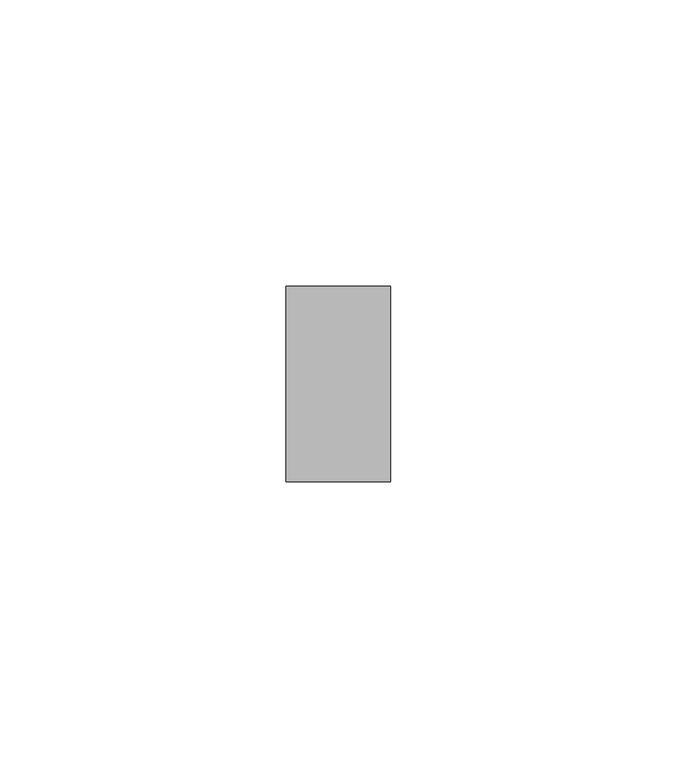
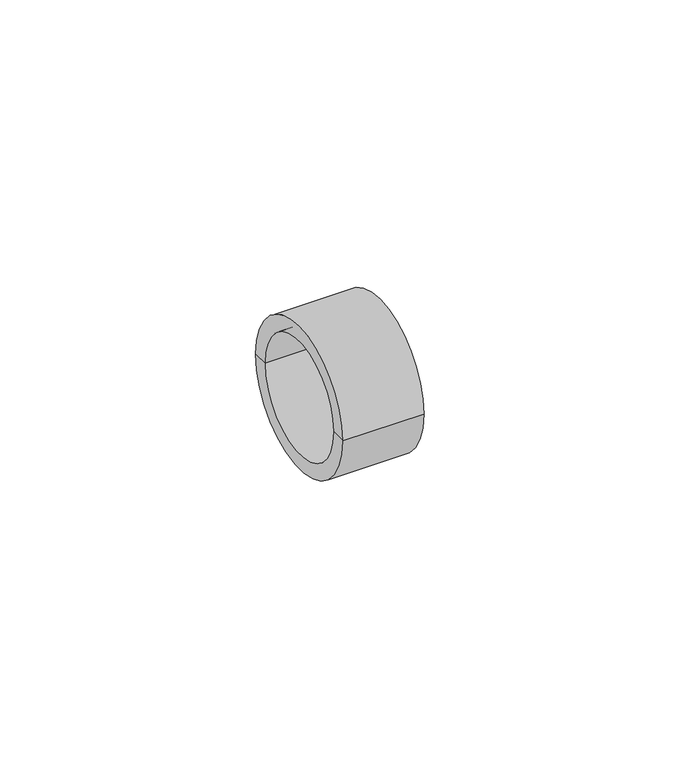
"""IFC4 building model written with IfcOpenShell, lengths in millimetres: cable carrier fitting geometry."""

from ifc_helpers import new_model, si_unit, frame, origin, place, context, project, spatial, polyline, circle_curve, source, transform, mapped, element, save
from ifc_brep_helpers import plane_surface, cylinder_surface, revolved_surface, advanced_brep


def cable_carrier_fitting_d448ec8e(model_context):
    return source(origin(), model_context, "Body", "AdvancedBrep", [
        advanced_brep(
        [(-17.01, -17.05, 0.0), (-17.01, 17.05, 0.0), (1.25, 17.05, 0.0), (1.25, -17.05, 0.0), (-17.01, -13.495, 0.0), (-17.01, 13.495, 0.0), (1.25, 13.495, 0.0), (1.25, -13.495, 0.0)],
        [
            (0, 1, circle_curve(frame((-17.01, 0.0, 0.0), z_axis=(1.0, 0.0, 0.0), x_axis=(0.0, 1.0, 0.0)), 17.05)),
            (1, 2),
            (2, 3, circle_curve(frame((1.25, 0.0, 0.0), z_axis=(-1.0, 0.0, 0.0), x_axis=(0.0, 1.0, 0.0)), 17.05)),
            (3, 0),
            (1, 0, circle_curve(frame((-17.01, 0.0, 0.0), z_axis=(1.0, 0.0, 0.0), x_axis=(0.0, 1.0, 0.0)), 17.05)),
            (3, 2, circle_curve(frame((1.25, 0.0, 0.0), z_axis=(-1.0, 0.0, 0.0), x_axis=(0.0, 1.0, 0.0)), 17.05)),
            (4, 5, circle_curve(frame((-17.01, 0.0, 0.0), z_axis=(1.0, 0.0, 0.0), x_axis=(0.0, 1.0, 0.0)), 13.495)),
            (5, 1),
            (0, 4),
            (5, 4, circle_curve(frame((-17.01, 0.0, 0.0), z_axis=(1.0, 0.0, 0.0), x_axis=(0.0, 1.0, 0.0)), 13.495)),
            (2, 6),
            (6, 7, circle_curve(frame((1.25, 0.0, 0.0), z_axis=(-1.0, 0.0, 0.0), x_axis=(0.0, 1.0, 0.0)), 13.495)),
            (7, 3),
            (7, 6, circle_curve(frame((1.25, 0.0, 0.0), z_axis=(-1.0, 0.0, 0.0), x_axis=(0.0, 1.0, 0.0)), 13.495)),
            (6, 5),
            (4, 7),
        ],
        [
            cylinder_surface(frame((1983.77, 0.0, 0.0), z_axis=(-1.0, 0.0, 0.0), x_axis=(0.0, 1.0, 0.0)), 17.05),
            plane_surface(frame((-17.01, 0.0, 0.0), z_axis=(-1.0, 0.0, 0.0), x_axis=(0.0, 1.0, 0.0))),
            plane_surface(frame((1.25, 0.0, 0.0), z_axis=(1.0, 0.0, 0.0), x_axis=(0.0, 1.0, 0.0))),
            revolved_surface(polyline([(-17.00999999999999, 13.495, 0.0), (1.25, 13.495, 0.0)]), (1983.77, 0.0, 0.0), (-1.0, 0.0, 0.0)),
        ],
        [
            (0, [[1, 2, 3, 4]]),
            (0, [[5, -4, 6, -2]]),
            (1, [[7, 8, -1, 9]]),
            (1, [[10, -9, -5, -8]]),
            (2, [[-3, 11, 12, 13]]),
            (2, [[-6, -13, 14, -11]]),
            (3, [[-12, 15, -7, 16]]),
            (3, [[-14, -16, -10, -15]]),
        ],
    ),
        advanced_brep(
        [(-1.25, -13.495, 0.0), (-1.25, 13.495, 0.0), (1.25, 13.495, 0.0), (1.25, -13.495, 0.0), (-1.25, 0.0, 0.0), (1.25, 0.0, 0.0)],
        [
            (0, 1, circle_curve(frame((-1.25, 0.0, 0.0), z_axis=(1.0, 0.0, 0.0), x_axis=(0.0, 1.0, 0.0)), 13.495)),
            (1, 2),
            (2, 3, circle_curve(frame((1.25, 0.0, 0.0), z_axis=(-1.0, 0.0, 0.0), x_axis=(0.0, 1.0, 0.0)), 13.495)),
            (3, 0),
            (1, 0, circle_curve(frame((-1.25, 0.0, 0.0), z_axis=(1.0, 0.0, 0.0), x_axis=(0.0, 1.0, 0.0)), 13.495)),
            (3, 2, circle_curve(frame((1.25, 0.0, 0.0), z_axis=(-1.0, 0.0, 0.0), x_axis=(0.0, 1.0, 0.0)), 13.495)),
            (4, 1),
            (0, 4),
            (2, 5),
            (5, 3),
        ],
        [
            cylinder_surface(frame((1998.2590145, 0.0, 0.0), z_axis=(-1.0, 0.0, 0.0), x_axis=(0.0, 1.0, 0.0)), 13.495),
            plane_surface(frame((-1.25, 0.0, 0.0), z_axis=(-1.0, 0.0, 0.0), x_axis=(0.0, 1.0, 0.0))),
            plane_surface(frame((1.25, 0.0, 0.0), z_axis=(1.0, 0.0, 0.0), x_axis=(0.0, 1.0, 0.0))),
        ],
        [
            (0, [[1, 2, 3, 4]]),
            (0, [[5, -4, 6, -2]]),
            (1, [[7, -1, 8]]),
            (1, [[-8, -5, -7]]),
            (2, [[-3, 9, 10]]),
            (2, [[-6, -10, -9]]),
        ],
    ),
    ])


if __name__ == "__main__":
    model = new_model("IFC4")
    model_context = context("Model", 3, world=origin())
    ifc_project = project(units=[si_unit("LENGTHUNIT", "METRE", prefix="MILLI")], contexts=[model_context])
    site = spatial("IfcSite", under=ifc_project)
    building = spatial("IfcBuilding", under=site)
    placement = place(None, origin())
    cable_carrier_fitting_shape = cable_carrier_fitting_d448ec8e(model_context)
    element("IfcCableCarrierFitting", 1, ObjectType="AmancoWavin_ConduitFittings_ConectorMacho_U : Conduflex de ½ a 1\"", at=placement, inside=building, context=model_context, shape_type="MappedRepresentation", body=[
        mapped(cable_carrier_fitting_shape, transform((0.0, 0.0, 0.0), x_axis=(1.0, 0.0, 0.0), y_axis=(0.0, 1.0, 0.0), z_axis=(0.0, 0.0, 1.0))),
    ])
    save(model, "model.ifc")
